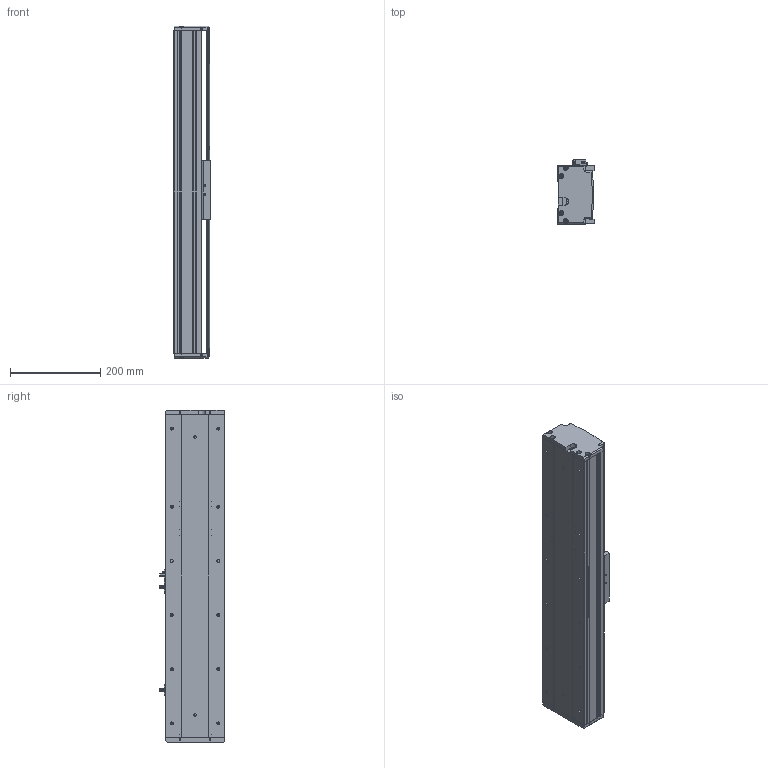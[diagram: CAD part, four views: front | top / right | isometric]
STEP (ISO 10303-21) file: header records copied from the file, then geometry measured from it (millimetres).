
FILE_DESCRIPTION (( 'STEP AP214' ), '1' );
FILE_NAME ('KSD130S-P2010-S250-M-CM.STEP', '2019-09-10T06:30:54', ( '微软用户' ), ( '微软中国' ), 'SwSTEP 2.0', 'SolidWorks 2014', '' );
FILE_SCHEMA (( 'AUTOMOTIVE_DESIGN' ));
Length unit declared in the file: millimetre
Products named in the file (8): 130宽马达安装板半封闭-内装; U倰嫖萇EEㄜSX672; 覜茼え100遵圉猾敕; 130宽盖板半封闭丝杠内装-250行程; 130宽滚珠丝杆安装板半封闭-内装-20丝杆; 130宽端盖半封闭-内装; 130宽底板半封闭丝杠内装-250行程; KSD130S-P2010-S250-M-CM
Assembly tree (9 placements, depth 2):
  KSD130S-P2010-S250-M-CM
    130宽底板半封闭丝杠内装-250行程
    130宽端盖半封闭-内装
    130宽滚珠丝杆安装板半封闭-内装-20丝杆
    130宽盖板半封闭丝杠内装-250行程
    覜茼え100遵圉猾敕
    U倰嫖萇EEㄜSX672  x3
    130宽马达安装板半封闭-内装
Bounding box: 80 x 143.7 x 735 mm (x, y, z)
Volume: 2379750 mm3; surface area: 720174.7 mm2
Topology: 9 solids, 9 shells, 993 faces, 2844 edges, 1818 vertices
Faces by surface type: plane 435, cylinder 432, cone 126
Entity records: 30960 total; most frequent: CARTESIAN_POINT 5799, DIRECTION 4526, ORIENTED_EDGE 4432, EDGE_CURVE 2216, AXIS2_PLACEMENT_3D 1629, VERTEX_POINT 1442, LINE 1268, VECTOR 1268
